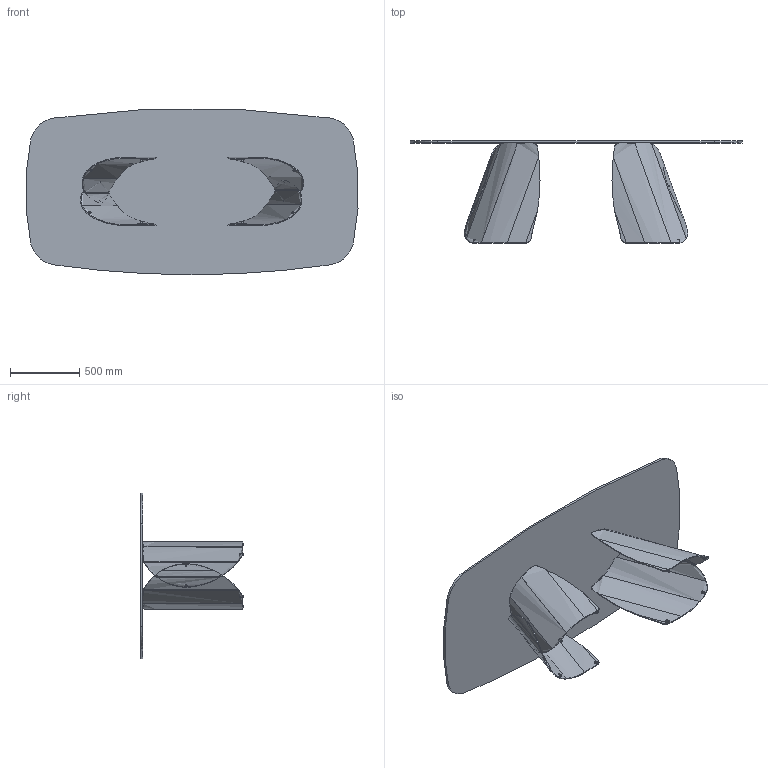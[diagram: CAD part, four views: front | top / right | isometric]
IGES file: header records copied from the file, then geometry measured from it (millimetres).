
Start section: SolidWorks IGES file using analytic representation for surfaces
Global section: file name: Y:\eforma\TECNICO\SOLIDWORKS\E-FORMA\1-TAVOLI\PERLA\02 parts\PA43G_Perla 240x120_Glass Shaped.IGS; native system: SolidWorks 2022; preprocessor: SolidWorks 2022; author: eforma.tech; date: 240801.145406; units: millimetre
Bounding box: 2391.62 x 736.5 x 1192.03 mm (x, y, z)
Volume: 49792016 mm3; surface area: 8803149.5 mm2
Topology: 33 solids, 33 shells, 477 faces, 1057 edges, 646 vertices
Faces by surface type: revolution 245, bspline 130, plane 102
